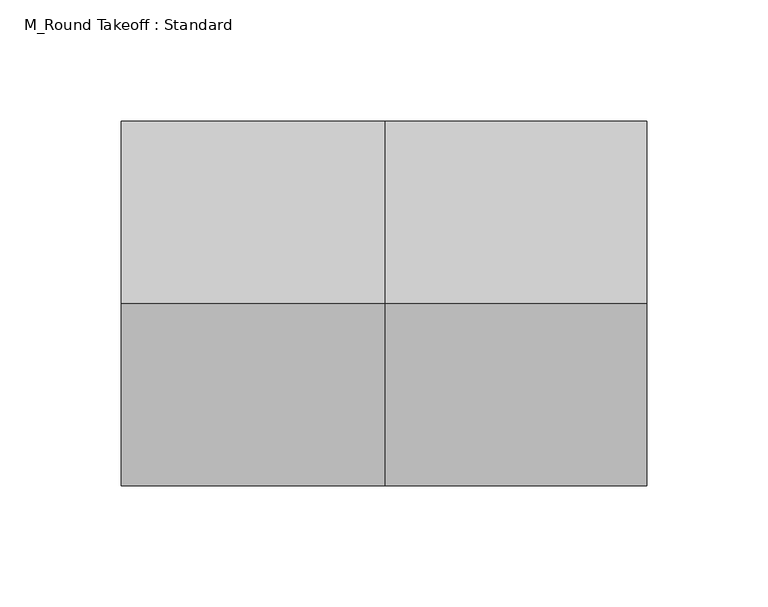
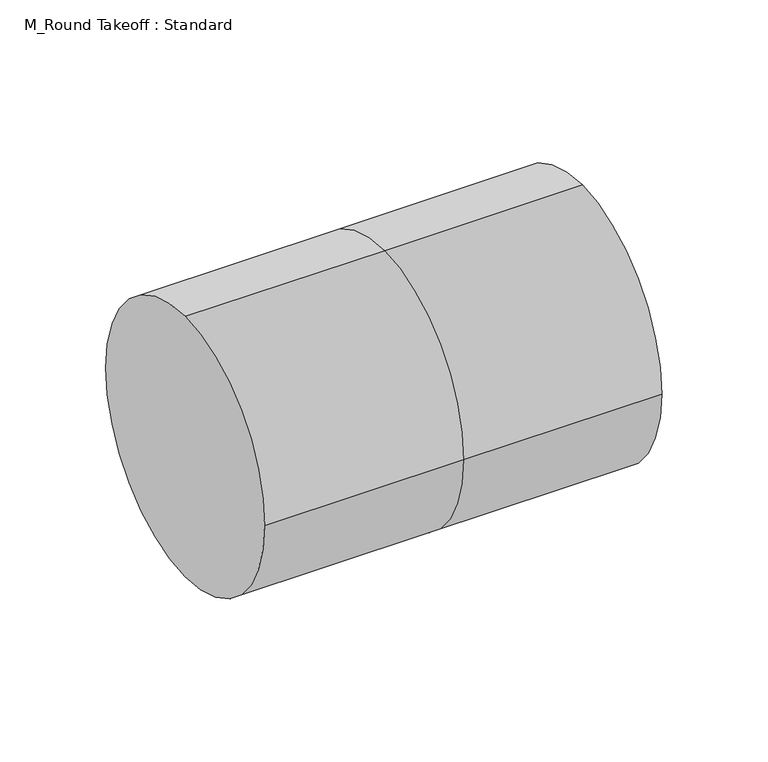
"""IFC4 building model written with IfcOpenShell, lengths in millimetres: duct fitting geometry, M_Round Takeoff : Standard."""

from ifc_helpers import new_model, si_unit, frame, origin, place, context, project, spatial, circle_curve, source, transform, mapped, element, save
from ifc_brep_helpers import plane_surface, cylinder_surface, advanced_brep


def m_round_takeoff_standard_cf312e37(model_context):
    return source(origin(), model_context, "Body", "AdvancedBrep", [
        advanced_brep(
        [(-108.4683924, 0.0, 75.0), (-108.4683924, 75.0, 0.0), (-108.4683924, 0.0, -75.0), (-108.4683924, -75.0, 0.0), (0.0, 0.0, 75.0), (0.0, 75.0, 0.0), (0.0, 0.0, -75.0), (0.0, -75.0, 0.0), (107.9100948, 0.0, 75.0), (107.9100948, -75.0, 0.0), (107.9100948, 0.0, -75.0), (107.9100948, 75.0, 0.0)],
        [
            (0, 1, circle_curve(frame((-108.4683924, 0.0, 0.0), z_axis=(-1.0, 0.0, 0.0), x_axis=(0.0, 1.0, 0.0)), 75.0)),
            (1, 2, circle_curve(frame((-108.4683924, 0.0, 0.0), z_axis=(-1.0, 0.0, 0.0), x_axis=(0.0, 1.0, 0.0)), 75.0)),
            (2, 3, circle_curve(frame((-108.4683924, 0.0, 0.0), z_axis=(-1.0, 0.0, 0.0), x_axis=(0.0, 1.0, 0.0)), 75.0)),
            (3, 0, circle_curve(frame((-108.4683924, 0.0, 0.0), z_axis=(-1.0, 0.0, 0.0), x_axis=(0.0, 1.0, 0.0)), 75.0)),
            (0, 4),
            (4, 5, circle_curve(frame((0.0, 0.0, 0.0), z_axis=(-1.0, 0.0, 0.0), x_axis=(0.0, 1.0, 0.0)), 75.0)),
            (5, 1),
            (5, 6, circle_curve(frame((0.0, 0.0, 0.0), z_axis=(-1.0, 0.0, 0.0), x_axis=(0.0, 1.0, 0.0)), 75.0)),
            (6, 2),
            (6, 7, circle_curve(frame((0.0, 0.0, 0.0), z_axis=(-1.0, 0.0, 0.0), x_axis=(0.0, 1.0, 0.0)), 75.0)),
            (7, 3),
            (7, 4, circle_curve(frame((0.0, 0.0, 0.0), z_axis=(-1.0, 0.0, 0.0), x_axis=(0.0, 1.0, 0.0)), 75.0)),
            (8, 9, circle_curve(frame((107.9100948, 0.0, 0.0), z_axis=(1.0, 0.0, 0.0), x_axis=(0.0, 1.0, 0.0)), 75.0)),
            (9, 10, circle_curve(frame((107.9100948, 0.0, 0.0), z_axis=(1.0, 0.0, 0.0), x_axis=(0.0, 1.0, 0.0)), 75.0)),
            (10, 11, circle_curve(frame((107.9100948, 0.0, 0.0), z_axis=(1.0, 0.0, 0.0), x_axis=(0.0, 1.0, 0.0)), 75.0)),
            (11, 8, circle_curve(frame((107.9100948, 0.0, 0.0), z_axis=(1.0, 0.0, 0.0), x_axis=(0.0, 1.0, 0.0)), 75.0)),
            (11, 5),
            (4, 8),
            (10, 6),
            (9, 7),
        ],
        [
            plane_surface(frame((-108.4683924, 0.0, 0.0), z_axis=(-1.0, 0.0, 0.0), x_axis=(0.0, 0.0, 1.0))),
            cylinder_surface(frame((-108.4683924, 0.0, 0.0), z_axis=(-1.0, 0.0, 0.0), x_axis=(0.0, 1.0, 0.0)), 75.0),
            plane_surface(frame((107.9100948, 0.0, 0.0), z_axis=(1.0, 0.0, 0.0), x_axis=(0.0, 0.0, 1.0))),
            cylinder_surface(frame((0.0, 0.0, 0.0), z_axis=(-1.0, 0.0, 0.0), x_axis=(0.0, 1.0, 0.0)), 75.0),
        ],
        [
            (0, [[1, 2, 3, 4]]),
            (1, [[-1, 5, 6, 7]]),
            (1, [[-2, -7, 8, 9]]),
            (1, [[-3, -9, 10, 11]]),
            (1, [[-4, -11, 12, -5]]),
            (2, [[13, 14, 15, 16]]),
            (3, [[-16, 17, -6, 18]]),
            (3, [[-15, 19, -8, -17]]),
            (3, [[-14, 20, -10, -19]]),
            (3, [[-13, -18, -12, -20]]),
        ],
    ),
        advanced_brep(
        [(107.9100948, 0.0, 75.0), (107.9100948, -75.0, 0.0), (107.9100948, 0.0, -75.0), (107.9100948, 75.0, 0.0), (0.0, 75.0, 0.0), (0.0, 0.0, 75.0), (0.0, 0.0, -75.0), (0.0, -75.0, 0.0), (-108.4683924, 0.0, 75.0), (-108.4683924, 75.0, 0.0), (-108.4683924, 0.0, -75.0), (-108.4683924, -75.0, 0.0)],
        [
            (0, 1, circle_curve(frame((107.9100948, 0.0, 0.0), z_axis=(1.0, 0.0, 0.0), x_axis=(0.0, 1.0, 0.0)), 75.0)),
            (1, 2, circle_curve(frame((107.9100948, 0.0, 0.0), z_axis=(1.0, 0.0, 0.0), x_axis=(0.0, 1.0, 0.0)), 75.0)),
            (2, 3, circle_curve(frame((107.9100948, 0.0, 0.0), z_axis=(1.0, 0.0, 0.0), x_axis=(0.0, 1.0, 0.0)), 75.0)),
            (3, 0, circle_curve(frame((107.9100948, 0.0, 0.0), z_axis=(1.0, 0.0, 0.0), x_axis=(0.0, 1.0, 0.0)), 75.0)),
            (3, 4),
            (4, 5, circle_curve(frame((0.0, 0.0, 0.0), z_axis=(1.0, 0.0, 0.0), x_axis=(0.0, 1.0, 0.0)), 75.0)),
            (5, 0),
            (2, 6),
            (6, 4, circle_curve(frame((0.0, 0.0, 0.0), z_axis=(1.0, 0.0, 0.0), x_axis=(0.0, 1.0, 0.0)), 75.0)),
            (1, 7),
            (7, 6, circle_curve(frame((0.0, 0.0, 0.0), z_axis=(1.0, 0.0, 0.0), x_axis=(0.0, 1.0, 0.0)), 75.0)),
            (5, 7, circle_curve(frame((0.0, 0.0, 0.0), z_axis=(1.0, 0.0, 0.0), x_axis=(0.0, 1.0, 0.0)), 75.0)),
            (8, 9, circle_curve(frame((-108.4683924, 0.0, 0.0), z_axis=(-1.0, 0.0, 0.0), x_axis=(0.0, 1.0, 0.0)), 75.0)),
            (9, 10, circle_curve(frame((-108.4683924, 0.0, 0.0), z_axis=(-1.0, 0.0, 0.0), x_axis=(0.0, 1.0, 0.0)), 75.0)),
            (10, 11, circle_curve(frame((-108.4683924, 0.0, 0.0), z_axis=(-1.0, 0.0, 0.0), x_axis=(0.0, 1.0, 0.0)), 75.0)),
            (11, 8, circle_curve(frame((-108.4683924, 0.0, 0.0), z_axis=(-1.0, 0.0, 0.0), x_axis=(0.0, 1.0, 0.0)), 75.0)),
            (8, 5),
            (4, 9),
            (6, 10),
            (7, 11),
        ],
        [
            plane_surface(frame((107.9100948, 0.0, 0.0), z_axis=(1.0, 0.0, 0.0), x_axis=(0.0, 0.0, 1.0))),
            cylinder_surface(frame((0.0, 0.0, 0.0), z_axis=(-1.0, 0.0, 0.0), x_axis=(0.0, 1.0, 0.0)), 75.0),
            plane_surface(frame((-108.4683924, 0.0, 0.0), z_axis=(-1.0, 0.0, 0.0), x_axis=(0.0, 0.0, 1.0))),
            cylinder_surface(frame((-108.4683924, 0.0, 0.0), z_axis=(-1.0, 0.0, 0.0), x_axis=(0.0, 1.0, 0.0)), 75.0),
        ],
        [
            (0, [[1, 2, 3, 4]]),
            (1, [[-4, 5, 6, 7]]),
            (1, [[-3, 8, 9, -5]]),
            (1, [[-2, 10, 11, -8]]),
            (1, [[-1, -7, 12, -10]]),
            (2, [[13, 14, 15, 16]]),
            (3, [[-13, 17, -6, 18]]),
            (3, [[-14, -18, -9, 19]]),
            (3, [[-15, -19, -11, 20]]),
            (3, [[-16, -20, -12, -17]]),
        ],
    ),
        advanced_brep(
        [(-108.4683924, 0.0, 75.0), (-108.4683924, 75.0, 0.0), (-108.4683924, 0.0, -75.0), (-108.4683924, -75.0, 0.0), (0.0, 0.0, 75.0), (0.0, 75.0, 0.0), (0.0, 0.0, -75.0), (0.0, -75.0, 0.0), (107.9100948, 0.0, 75.0), (107.9100948, -75.0, 0.0), (107.9100948, 0.0, -75.0), (107.9100948, 75.0, 0.0)],
        [
            (0, 1, circle_curve(frame((-108.4683924, 0.0, 0.0), z_axis=(-1.0, 0.0, 0.0), x_axis=(0.0, 1.0, 0.0)), 75.0)),
            (1, 2, circle_curve(frame((-108.4683924, 0.0, 0.0), z_axis=(-1.0, 0.0, 0.0), x_axis=(0.0, 1.0, 0.0)), 75.0)),
            (2, 3, circle_curve(frame((-108.4683924, 0.0, 0.0), z_axis=(-1.0, 0.0, 0.0), x_axis=(0.0, 1.0, 0.0)), 75.0)),
            (3, 0, circle_curve(frame((-108.4683924, 0.0, 0.0), z_axis=(-1.0, 0.0, 0.0), x_axis=(0.0, 1.0, 0.0)), 75.0)),
            (0, 4),
            (4, 5, circle_curve(frame((0.0, 0.0, 0.0), z_axis=(-1.0, 0.0, 0.0), x_axis=(0.0, 1.0, 0.0)), 75.0)),
            (5, 1),
            (5, 6, circle_curve(frame((0.0, 0.0, 0.0), z_axis=(-1.0, 0.0, 0.0), x_axis=(0.0, 1.0, 0.0)), 75.0)),
            (6, 2),
            (6, 7, circle_curve(frame((0.0, 0.0, 0.0), z_axis=(-1.0, 0.0, 0.0), x_axis=(0.0, 1.0, 0.0)), 75.0)),
            (7, 3),
            (7, 4, circle_curve(frame((0.0, 0.0, 0.0), z_axis=(-1.0, 0.0, 0.0), x_axis=(0.0, 1.0, 0.0)), 75.0)),
            (8, 9, circle_curve(frame((107.9100948, 0.0, 0.0), z_axis=(1.0, 0.0, 0.0), x_axis=(0.0, 1.0, 0.0)), 75.0)),
            (9, 10, circle_curve(frame((107.9100948, 0.0, 0.0), z_axis=(1.0, 0.0, 0.0), x_axis=(0.0, 1.0, 0.0)), 75.0)),
            (10, 11, circle_curve(frame((107.9100948, 0.0, 0.0), z_axis=(1.0, 0.0, 0.0), x_axis=(0.0, 1.0, 0.0)), 75.0)),
            (11, 8, circle_curve(frame((107.9100948, 0.0, 0.0), z_axis=(1.0, 0.0, 0.0), x_axis=(0.0, 1.0, 0.0)), 75.0)),
            (11, 5),
            (4, 8),
            (10, 6),
            (9, 7),
        ],
        [
            plane_surface(frame((-108.4683924, 0.0, 0.0), z_axis=(-1.0, 0.0, 0.0), x_axis=(0.0, 0.0, 1.0))),
            cylinder_surface(frame((-108.4683924, 0.0, 0.0), z_axis=(-1.0, 0.0, 0.0), x_axis=(0.0, 1.0, 0.0)), 75.0),
            plane_surface(frame((107.9100948, 0.0, 0.0), z_axis=(1.0, 0.0, 0.0), x_axis=(0.0, 0.0, 1.0))),
            cylinder_surface(frame((0.0, 0.0, 0.0), z_axis=(-1.0, 0.0, 0.0), x_axis=(0.0, 1.0, 0.0)), 75.0),
        ],
        [
            (0, [[1, 2, 3, 4]]),
            (1, [[-1, 5, 6, 7]]),
            (1, [[-2, -7, 8, 9]]),
            (1, [[-3, -9, 10, 11]]),
            (1, [[-4, -11, 12, -5]]),
            (2, [[13, 14, 15, 16]]),
            (3, [[-16, 17, -6, 18]]),
            (3, [[-15, 19, -8, -17]]),
            (3, [[-14, 20, -10, -19]]),
            (3, [[-13, -18, -12, -20]]),
        ],
    ),
    ])


if __name__ == "__main__":
    model = new_model("IFC4")
    model_context = context("Model", 3, world=origin())
    ifc_project = project(units=[si_unit("LENGTHUNIT", "METRE", prefix="MILLI")], contexts=[model_context])
    site = spatial("IfcSite", under=ifc_project)
    building = spatial("IfcBuilding", under=site)
    placement = place(None, origin())
    m_round_takeoff_standard_shape = m_round_takeoff_standard_cf312e37(model_context)
    element("IfcDuctFitting", 1, ObjectType="M_Round Takeoff : Standard", at=placement, inside=building, context=model_context, shape_type="MappedRepresentation", body=[
        mapped(m_round_takeoff_standard_shape, transform((0.0, 0.0, 0.0), x_axis=(1.0, 0.0, 0.0), y_axis=(0.0, 1.0, 0.0), z_axis=(0.0, 0.0, 1.0))),
    ])
    save(model, "model.ifc")
